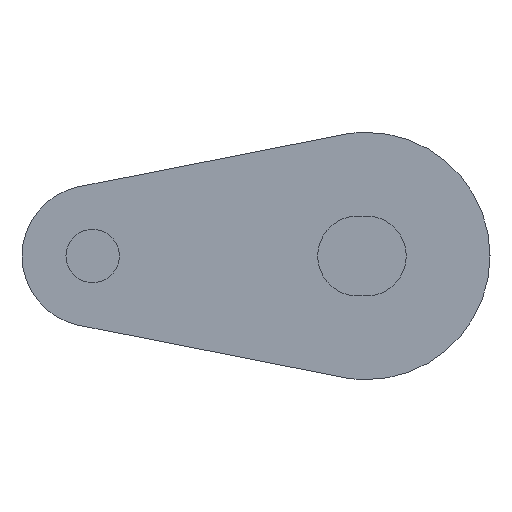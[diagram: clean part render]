
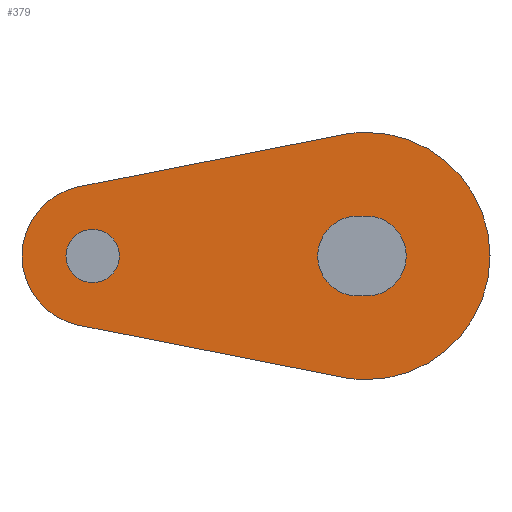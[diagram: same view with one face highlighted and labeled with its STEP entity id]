
A CAD part, left-side view. The second image highlights one B-rep face of the part: STEP entity #379.
In plain terms, the highlighted planar face has unit normal (-1, 0, 0).
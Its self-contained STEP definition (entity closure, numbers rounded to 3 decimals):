
#38 = DIRECTION ( 'NONE',  ( 0., 1., 0. ) ) ;
#48 = CARTESIAN_POINT ( 'NONE',  ( -332.5, 0.5, -2.26 ) ) ;
#54 = DIRECTION ( 'NONE',  ( 0., 0., -1. ) ) ;
#55 = DIRECTION ( 'NONE',  ( 1., 0., 0. ) ) ;
#58 = CARTESIAN_POINT ( 'NONE',  ( -332.5, 15.5, 0. ) ) ;
#60 = CARTESIAN_POINT ( 'NONE',  ( -332.5, 1.355, -6.868 ) ) ;
#62 = CARTESIAN_POINT ( 'NONE',  ( -332.5, 15.5, -1.51 ) ) ;
#76 = VERTEX_POINT ( 'NONE', #250 ) ;
#92 = DIRECTION ( 'NONE',  ( 0., 0., -1. ) ) ;
#93 = DIRECTION ( 'NONE',  ( 1., 0., 0. ) ) ;
#95 = CARTESIAN_POINT ( 'NONE',  ( -332.5, 0., 0. ) ) ;
#96 = DIRECTION ( 'NONE',  ( 0., 0., -1. ) ) ;
#97 = DIRECTION ( 'NONE',  ( 1., 0., 0. ) ) ;
#98 = CARTESIAN_POINT ( 'NONE',  ( -332.5, 0.5, 0. ) ) ;
#99 = DIRECTION ( 'NONE',  ( 0., 0., -1. ) ) ;
#100 = DIRECTION ( 'NONE',  ( 1., 0., 0. ) ) ;
#101 = CARTESIAN_POINT ( 'NONE',  ( -332.5, 0., 0. ) ) ;
#113 = VERTEX_POINT ( 'NONE', #242 ) ;
#118 = DIRECTION ( 'NONE',  ( 0., 0., -1. ) ) ;
#120 = DIRECTION ( 'NONE',  ( 1., 0., 0. ) ) ;
#149 = CARTESIAN_POINT ( 'NONE',  ( -332.5, 0., 0. ) ) ;
#150 = CARTESIAN_POINT ( 'NONE',  ( -332.5, 0.5, 2.26 ) ) ;
#163 = VERTEX_POINT ( 'NONE', #299 ) ;
#183 = VERTEX_POINT ( 'NONE', #294 ) ;
#189 = CARTESIAN_POINT ( 'NONE',  ( -332.5, 15.5, 1.51 ) ) ;
#192 = DIRECTION ( 'NONE',  ( 0., 0., -1. ) ) ;
#193 = DIRECTION ( 'NONE',  ( -1., 0., 0. ) ) ;
#194 = CARTESIAN_POINT ( 'NONE',  ( -332.5, 15.5, 0. ) ) ;
#201 = PLANE ( 'NONE',  #956 ) ;
#216 = VERTEX_POINT ( 'NONE', #60 ) ;
#242 = CARTESIAN_POINT ( 'NONE',  ( -332.5, 16.274, 3.924 ) ) ;
#250 = CARTESIAN_POINT ( 'NONE',  ( -332.5, 0., 2.26 ) ) ;
#270 = CARTESIAN_POINT ( 'NONE',  ( -332.5, 1.355, 6.868 ) ) ;
#294 = CARTESIAN_POINT ( 'NONE',  ( -332.5, 0., 7. ) ) ;
#299 = CARTESIAN_POINT ( 'NONE',  ( -332.5, 0., -2.26 ) ) ;
#306 = VERTEX_POINT ( 'NONE', #270 ) ;
#307 = CARTESIAN_POINT ( 'NONE',  ( -332.5, 0.5, -2.26 ) ) ;
#308 = CARTESIAN_POINT ( 'NONE',  ( -332.5, 16.274, -3.924 ) ) ;
#318 = VERTEX_POINT ( 'NONE', #150 ) ;
#325 = VERTEX_POINT ( 'NONE', #62 ) ;
#328 = VERTEX_POINT ( 'NONE', #345 ) ;
#335 = VERTEX_POINT ( 'NONE', #189 ) ;
#341 = VERTEX_POINT ( 'NONE', #308 ) ;
#345 = CARTESIAN_POINT ( 'NONE',  ( -332.5, 0., -7. ) ) ;
#346 = VERTEX_POINT ( 'NONE', #307 ) ;
#379 = ADVANCED_FACE ( 'NONE', ( #655, #656, #670 ), #201, .T. ) ;
#389 = DIRECTION ( 'NONE',  ( 0., 0., -1. ) ) ;
#391 = DIRECTION ( 'NONE',  ( 1., 0., 0. ) ) ;
#396 = CARTESIAN_POINT ( 'NONE',  ( -332.5, 0., 0. ) ) ;
#403 = DIRECTION ( 'NONE',  ( 0., 0., -1. ) ) ;
#404 = DIRECTION ( 'NONE',  ( 1., 0., 0. ) ) ;
#410 = CARTESIAN_POINT ( 'NONE',  ( -332.5, 15.5, 0. ) ) ;
#428 = DIRECTION ( 'NONE',  ( 0., 0., -1. ) ) ;
#429 = DIRECTION ( 'NONE',  ( 1., 0., 0. ) ) ;
#439 = DIRECTION ( 'NONE',  ( 0., -1., 0. ) ) ;
#440 = CARTESIAN_POINT ( 'NONE',  ( -332.5, 15.5, 0. ) ) ;
#443 = CARTESIAN_POINT ( 'NONE',  ( -332.5, 0.5, 2.26 ) ) ;
#451 = CARTESIAN_POINT ( 'NONE',  ( -332.5, 16.274, 3.924 ) ) ;
#463 = DIRECTION ( 'NONE',  ( 0., -0.981, 0.194 ) ) ;
#464 = CARTESIAN_POINT ( 'NONE',  ( -332.5, 1.355, -6.868 ) ) ;
#467 = DIRECTION ( 'NONE',  ( 0., 0.981, 0.194 ) ) ;
#645 = ORIENTED_EDGE ( 'NONE', *, *, #929, .T. ) ;
#655 = FACE_BOUND ( 'NONE', #661, .T. ) ;
#656 = FACE_BOUND ( 'NONE', #676, .T. ) ;
#661 = EDGE_LOOP ( 'NONE', ( #645, #833, #822, #823 ) ) ;
#666 = EDGE_LOOP ( 'NONE', ( #686, #678, #828, #830, #831, #826 ) ) ;
#670 = FACE_OUTER_BOUND ( 'NONE', #666, .T. ) ;
#676 = EDGE_LOOP ( 'NONE', ( #825, #688 ) ) ;
#678 = ORIENTED_EDGE ( 'NONE', *, *, #1003, .F. ) ;
#686 = ORIENTED_EDGE ( 'NONE', *, *, #951, .F. ) ;
#688 = ORIENTED_EDGE ( 'NONE', *, *, #1037, .T. ) ;
#727 = CIRCLE ( 'NONE', #957, 1.51 ) ;
#737 = CIRCLE ( 'NONE', #958, 7. ) ;
#755 = CIRCLE ( 'NONE', #1042, 1.51 ) ;
#768 = VECTOR ( 'NONE', #439, 1000. ) ;
#788 = LINE ( 'NONE', #443, #768 ) ;
#816 = LINE ( 'NONE', #464, #817 ) ;
#817 = VECTOR ( 'NONE', #467, 1000. ) ;
#818 = VECTOR ( 'NONE', #463, 1000. ) ;
#819 = LINE ( 'NONE', #451, #818 ) ;
#822 = ORIENTED_EDGE ( 'NONE', *, *, #933, .T. ) ;
#823 = ORIENTED_EDGE ( 'NONE', *, *, #971, .T. ) ;
#825 = ORIENTED_EDGE ( 'NONE', *, *, #1052, .T. ) ;
#826 = ORIENTED_EDGE ( 'NONE', *, *, #1000, .F. ) ;
#828 = ORIENTED_EDGE ( 'NONE', *, *, #928, .F. ) ;
#830 = ORIENTED_EDGE ( 'NONE', *, *, #1063, .F. ) ;
#831 = ORIENTED_EDGE ( 'NONE', *, *, #912, .F. ) ;
#833 = ORIENTED_EDGE ( 'NONE', *, *, #1030, .T. ) ;
#867 = VECTOR ( 'NONE', #38, 1000. ) ;
#875 = CIRCLE ( 'NONE', #953, 4. ) ;
#877 = LINE ( 'NONE', #48, #867 ) ;
#889 = CIRCLE ( 'NONE', #942, 2.26 ) ;
#892 = CIRCLE ( 'NONE', #1010, 2.26 ) ;
#893 = CIRCLE ( 'NONE', #985, 7. ) ;
#900 = CIRCLE ( 'NONE', #1039, 7. ) ;
#912 = EDGE_CURVE ( 'NONE', #306, #183, #900, .T. ) ;
#928 = EDGE_CURVE ( 'NONE', #328, #216, #893, .T. ) ;
#929 = EDGE_CURVE ( 'NONE', #346, #318, #889, .T. ) ;
#933 = EDGE_CURVE ( 'NONE', #76, #163, #892, .T. ) ;
#942 = AXIS2_PLACEMENT_3D ( 'NONE', #98, #97, #96 ) ;
#951 = EDGE_CURVE ( 'NONE', #341, #113, #875, .T. ) ;
#953 = AXIS2_PLACEMENT_3D ( 'NONE', #58, #55, #54 ) ;
#956 = AXIS2_PLACEMENT_3D ( 'NONE', #194, #193, #192 ) ;
#957 = AXIS2_PLACEMENT_3D ( 'NONE', #410, #404, #403 ) ;
#958 = AXIS2_PLACEMENT_3D ( 'NONE', #396, #391, #389 ) ;
#971 = EDGE_CURVE ( 'NONE', #163, #346, #877, .T. ) ;
#985 = AXIS2_PLACEMENT_3D ( 'NONE', #101, #100, #99 ) ;
#1000 = EDGE_CURVE ( 'NONE', #113, #306, #819, .T. ) ;
#1003 = EDGE_CURVE ( 'NONE', #216, #341, #816, .T. ) ;
#1010 = AXIS2_PLACEMENT_3D ( 'NONE', #95, #93, #92 ) ;
#1030 = EDGE_CURVE ( 'NONE', #318, #76, #788, .T. ) ;
#1037 = EDGE_CURVE ( 'NONE', #335, #325, #755, .T. ) ;
#1039 = AXIS2_PLACEMENT_3D ( 'NONE', #149, #120, #118 ) ;
#1042 = AXIS2_PLACEMENT_3D ( 'NONE', #440, #429, #428 ) ;
#1052 = EDGE_CURVE ( 'NONE', #325, #335, #727, .T. ) ;
#1063 = EDGE_CURVE ( 'NONE', #183, #328, #737, .T. ) ;
